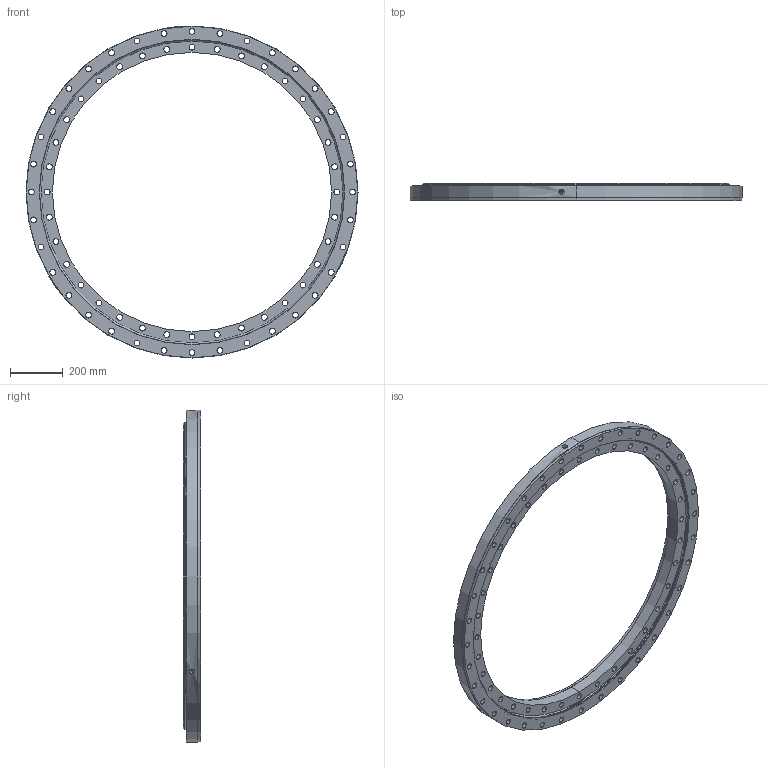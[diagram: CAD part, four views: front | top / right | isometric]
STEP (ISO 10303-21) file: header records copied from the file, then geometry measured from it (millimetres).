
FILE_DESCRIPTION (( 'STEP AP214' ), '1' );
FILE_NAME ('B2125-0-1255AA.STEP', '2022-11-24T06:50:14', ( '' ), ( '' ), 'SwSTEP 2.0', 'SolidWorks 2020', '' );
FILE_SCHEMA (( 'AUTOMOTIVE_DESIGN' ));
Length unit declared in the file: millimetre
Products named in the file (1): B2125-0-1255AA
Bounding box: 1255 x 65 x 1255 mm (x, y, z)
Volume: 18135212.7 mm3; surface area: 2081506.8 mm2
Topology: 4 solids, 4 shells, 223 faces, 597 edges, 394 vertices
Faces by surface type: cylinder 191, plane 20, cone 12
Entity records: 8051 total; most frequent: CARTESIAN_POINT 1741, DIRECTION 1412, ORIENTED_EDGE 1194, AXIS2_PLACEMENT_3D 605, EDGE_CURVE 597, VERTEX_POINT 394, EDGE_LOOP 393, CIRCLE 381
